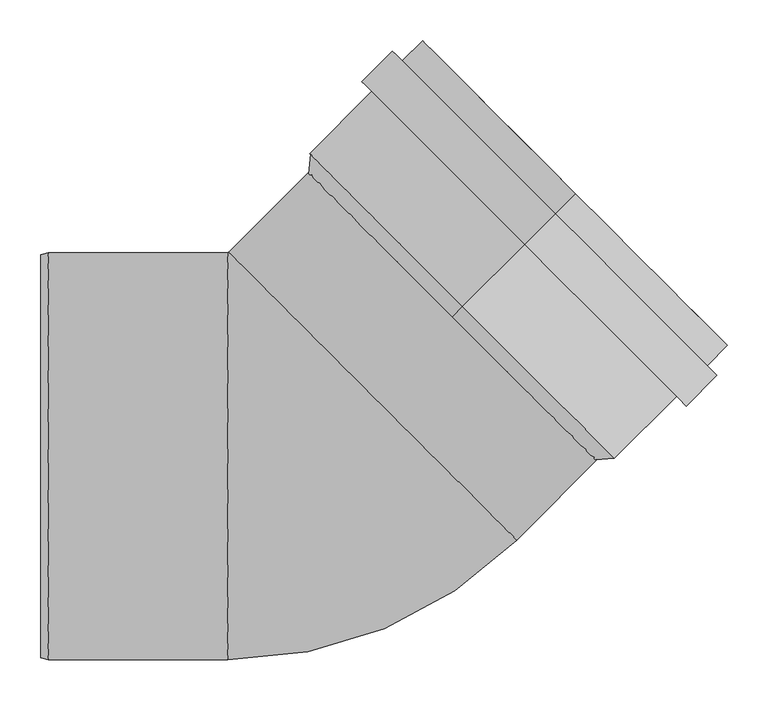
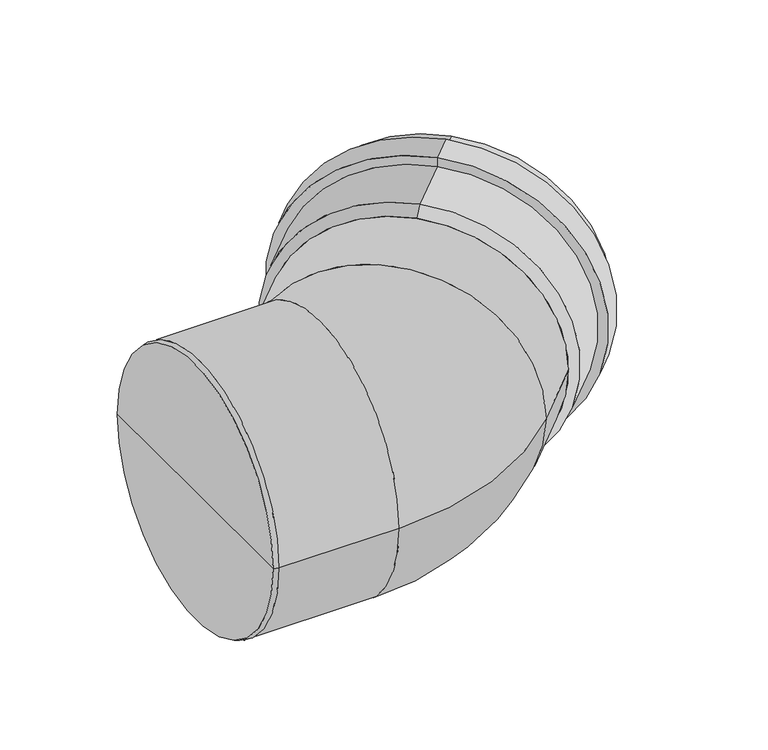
"""IFC4 building model written with IfcOpenShell, lengths in millimetres: pipe fitting geometry, OSMA_KG2000_PPKGB : Koleno 45°."""

from ifc_helpers import new_model, si_unit, point, frame, origin, place, context, project, spatial, polyline, circle_curve, ellipse_curve, trimmed, source, transform, mapped, element, save
from ifc_brep_helpers import plane_surface, cylinder_surface, revolved_surface, advanced_brep


def pipe_fitting_afd3f291(model_context):
    return source(origin(), model_context, "Body", "AdvancedBrep", [
        advanced_brep(
        [(183.8477631, 183.8477631, 250.0), (183.8477631, 183.8477631, -250.0), (322.4406922, 322.4406922, -250.0), (322.4406922, 322.4406922, 250.0), (260.2152955, 260.2152955, 265.3), (260.2152955, 260.2152955, -265.3), (183.8477631, 183.8477631, -265.3), (183.8477631, 183.8477631, 265.3), (260.2152955, 260.2152955, 282.5), (260.2152955, 260.2152955, -282.5), (297.6919549, 297.6919549, 282.5), (297.6919549, 297.6919549, -282.5), (297.6919549, 297.6919549, 265.3), (297.6919549, 297.6919549, -265.3), (322.4406922, 322.4406922, 265.3), (322.4406922, 322.4406922, -265.3), (171.119841, 171.119841, 234.7), (171.119841, 171.119841, -234.7), (171.119841, 171.119841, 250.0), (171.119841, 171.119841, -250.0)],
        [
            (0, 1, circle_curve(frame((183.8477631, 183.8477631, 0.0), z_axis=(-0.7071067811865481, -0.707106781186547, 0.0), x_axis=(0.0, 0.0, -1.0000000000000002)), 250.0)),
            (1, 2),
            (2, 3, circle_curve(frame((322.4406922, 322.4406922, 0.0), z_axis=(0.7071067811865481, 0.707106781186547, 0.0), x_axis=(0.0, 0.0, -1.0000000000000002)), 250.0)),
            (3, 0),
            (1, 0, circle_curve(frame((183.8477631, 183.8477631, 0.0), z_axis=(-0.7071067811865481, -0.707106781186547, 0.0), x_axis=(0.0, 0.0, -1.0000000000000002)), 250.0)),
            (3, 2, circle_curve(frame((322.4406922, 322.4406922, 0.0), z_axis=(0.7071067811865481, 0.707106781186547, 0.0), x_axis=(0.0, 0.0, -1.0000000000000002)), 250.0)),
            (4, 5, circle_curve(frame((260.2152955, 260.2152955, 0.0), z_axis=(-0.7071067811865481, -0.707106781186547, 0.0), x_axis=(0.0, 0.0, -1.0000000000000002)), 265.3)),
            (5, 6),
            (6, 7, circle_curve(frame((183.8477631, 183.8477631, 0.0), z_axis=(0.7071067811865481, 0.707106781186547, 0.0), x_axis=(0.0, 0.0, -1.0000000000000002)), 265.3)),
            (7, 4),
            (5, 4, circle_curve(frame((260.2152955, 260.2152955, 0.0), z_axis=(-0.7071067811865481, -0.707106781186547, 0.0), x_axis=(0.0, 0.0, -1.0000000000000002)), 265.3)),
            (7, 6, circle_curve(frame((183.8477631, 183.8477631, 0.0), z_axis=(0.7071067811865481, 0.707106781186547, 0.0), x_axis=(0.0, 0.0, -1.0000000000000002)), 265.3)),
            (8, 9, circle_curve(frame((260.2152955, 260.2152955, 0.0), z_axis=(-0.7071067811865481, -0.707106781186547, 0.0), x_axis=(0.0, 0.0, -1.0000000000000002)), 282.5)),
            (9, 5),
            (4, 8),
            (9, 8, circle_curve(frame((260.2152955, 260.2152955, 0.0), z_axis=(-0.7071067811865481, -0.707106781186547, 0.0), x_axis=(0.0, 0.0, -1.0000000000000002)), 282.5)),
            (10, 11, circle_curve(frame((297.6919549, 297.6919549, 0.0), z_axis=(-0.7071067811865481, -0.707106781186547, 0.0), x_axis=(0.0, 0.0, -1.0000000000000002)), 282.5)),
            (11, 9),
            (8, 10),
            (11, 10, circle_curve(frame((297.6919549, 297.6919549, 0.0), z_axis=(-0.7071067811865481, -0.707106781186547, 0.0), x_axis=(0.0, 0.0, -1.0000000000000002)), 282.5)),
            (12, 13, circle_curve(frame((297.6919549, 297.6919549, 0.0), z_axis=(-0.7071067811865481, -0.707106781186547, 0.0), x_axis=(0.0, 0.0, -1.0000000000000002)), 265.3)),
            (13, 11),
            (10, 12),
            (13, 12, circle_curve(frame((297.6919549, 297.6919549, 0.0), z_axis=(-0.7071067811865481, -0.707106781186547, 0.0), x_axis=(0.0, 0.0, -1.0000000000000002)), 265.3)),
            (14, 15, circle_curve(frame((322.4406922, 322.4406922, 0.0), z_axis=(-0.7071067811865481, -0.707106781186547, 0.0), x_axis=(0.0, 0.0, -1.0000000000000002)), 265.3)),
            (15, 13),
            (12, 14),
            (15, 14, circle_curve(frame((322.4406922, 322.4406922, 0.0), z_axis=(-0.7071067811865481, -0.707106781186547, 0.0), x_axis=(0.0, 0.0, -1.0000000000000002)), 265.3)),
            (2, 15),
            (14, 3),
            (16, 17, circle_curve(frame((171.119841, 171.119841, 0.0), z_axis=(-0.7071067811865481, -0.707106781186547, 0.0), x_axis=(0.0, 0.0, -1.0000000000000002)), 234.7)),
            (17, 1),
            (0, 16),
            (17, 16, circle_curve(frame((171.119841, 171.119841, 0.0), z_axis=(-0.7071067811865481, -0.707106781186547, 0.0), x_axis=(0.0, 0.0, -1.0000000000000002)), 234.7)),
            (18, 19, circle_curve(frame((171.119841, 171.119841, 0.0), z_axis=(-0.7071067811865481, -0.707106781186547, 0.0), x_axis=(0.0, 0.0, -1.0000000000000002)), 250.0)),
            (19, 17),
            (16, 18),
            (19, 18, circle_curve(frame((171.119841, 171.119841, 0.0), z_axis=(-0.7071067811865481, -0.707106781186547, 0.0), x_axis=(0.0, 0.0, -1.0000000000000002)), 250.0)),
            (6, 19),
            (18, 7),
        ],
        [
            revolved_surface(polyline([(322.44069219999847, 322.4406922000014, -250.00000000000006), (183.84776309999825, 183.84776310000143, -250.00000000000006)]), (2210.0440153, 2210.0440153, 0.0), (0.7071067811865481, 0.707106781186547, 0.0)),
            cylinder_surface(frame((2210.0440153, 2210.0440153, 0.0), z_axis=(0.7071067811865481, 0.707106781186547, 0.0), x_axis=(0.0, 0.0, -1.0000000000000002)), 265.3),
            plane_surface(frame((260.2152955, 260.2152955, 0.0), z_axis=(-0.7071067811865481, -0.707106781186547, 0.0), x_axis=(0.0, 0.0, -1.0))),
            cylinder_surface(frame((2210.0440153, 2210.0440153, 0.0), z_axis=(0.7071067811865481, 0.707106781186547, 0.0), x_axis=(0.0, 0.0, -1.0000000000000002)), 282.5),
            plane_surface(frame((297.6919549, 297.6919549, 0.0), z_axis=(0.7071067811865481, 0.707106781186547, 0.0), x_axis=(0.0, 0.0, -1.0))),
            plane_surface(frame((322.4406922, 322.4406922, 0.0), z_axis=(0.7071067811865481, 0.707106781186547, 0.0), x_axis=(0.0, 0.0, -1.0))),
            revolved_surface(polyline([(183.8477631, 183.8477631, -250.0), (171.119841, 171.119841, -234.7)]), (2210.0440153, 2210.0440153, 0.0), (0.7071067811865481, 0.707106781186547, 0.0)),
            plane_surface(frame((171.119841, 171.119841, 0.0), z_axis=(-0.7071067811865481, -0.707106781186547, 0.0), x_axis=(0.0, 0.0, -1.0))),
            revolved_surface(polyline([(171.119841, 171.119841, -250.0), (183.8477631, 183.8477631, -265.3)]), (2210.0440153, 2210.0440153, 0.0), (0.7071067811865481, 0.707106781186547, 0.0)),
        ],
        [
            (0, [[1, 2, 3, 4]]),
            (0, [[5, -4, 6, -2]]),
            (1, [[7, 8, 9, 10]]),
            (1, [[11, -10, 12, -8]]),
            (2, [[13, 14, -7, 15]]),
            (2, [[16, -15, -11, -14]]),
            (3, [[17, 18, -13, 19]]),
            (3, [[20, -19, -16, -18]]),
            (4, [[21, 22, -17, 23]]),
            (4, [[24, -23, -20, -22]]),
            (1, [[25, 26, -21, 27]]),
            (1, [[28, -27, -24, -26]]),
            (5, [[-3, 29, -25, 30]]),
            (5, [[-6, -30, -28, -29]]),
            (6, [[31, 32, -1, 33]]),
            (6, [[34, -33, -5, -32]]),
            (7, [[35, 36, -31, 37]]),
            (7, [[38, -37, -34, -36]]),
            (8, [[-9, 39, -35, 40]]),
            (8, [[-12, -40, -38, -39]]),
        ],
    ),
        advanced_brep(
        [(-103.1140508, 250.4393398, 0.0), (-104.1747109, 250.0, 0.0), (-104.1747109, -250.0, 0.0), (250.4393398, -103.1140508, 0.0), (73.6626445, 73.6626445, 250.0), (73.6626445, 73.6626445, -250.0), (-334.0, 0.0, 0.0), (-334.0, 247.5884572, 0.0), (-334.0, -247.5884572, 0.0), (-325.0, 250.0, 0.0), (-325.0, -250.0, 0.0), (356.3818177, 2.8284271, 0.0), (2.8284271, 356.3818177, 0.0)],
        [
            (0, 1, circle_curve(frame((-104.1747109, 251.5, 0.0), z_axis=(0.0, 0.0, -1.0), x_axis=(0.0, -1.0, 0.0)), 1.5)),
            (1, 2, circle_curve(frame((-104.1747109, 0.0, 0.0), z_axis=(1.0, 0.0, 0.0), x_axis=(0.0, 1.0, 0.0)), 250.0)),
            (2, 3, circle_curve(frame((-104.1747109, 251.5, 0.0), z_axis=(0.0, 0.0, 1.0), x_axis=(0.0, -1.0, 0.0)), 501.5)),
            (3, 4, circle_curve(frame((73.6626445, 73.6626445, 0.0), z_axis=(-0.7071067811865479, -0.7071067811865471, 0.0), x_axis=(-0.7071067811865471, 0.7071067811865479, 0.0)), 250.0)),
            (4, 0, circle_curve(frame((73.6626445, 73.6626445, 0.0), z_axis=(-0.7071067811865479, -0.7071067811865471, 0.0), x_axis=(-0.7071067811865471, 0.7071067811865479, 0.0)), 250.0)),
            (0, 5, circle_curve(frame((73.6626445, 73.6626445, 0.0), z_axis=(-0.7071067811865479, -0.7071067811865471, 0.0), x_axis=(-0.7071067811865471, 0.7071067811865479, 0.0)), 250.0)),
            (5, 3, circle_curve(frame((73.6626445, 73.6626445, 0.0), z_axis=(-0.707106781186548, -0.707106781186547, 0.0), x_axis=(-0.707106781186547, 0.707106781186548, 0.0)), 250.0)),
            (2, 1, circle_curve(frame((-104.1747109, 0.0, 0.0), z_axis=(1.0, 0.0, 0.0), x_axis=(0.0, 1.0, 0.0)), 250.0)),
            (6, 7),
            (7, 8, circle_curve(frame((-334.0, 0.0, 0.0), z_axis=(-1.0, 0.0, 0.0), x_axis=(0.0, 1.0, 0.0)), 247.5884572)),
            (8, 6),
            (8, 7, circle_curve(frame((-334.0, 0.0, 0.0), z_axis=(-1.0, 0.0, 0.0), x_axis=(0.0, 1.0, 0.0)), 247.5884572)),
            (7, 9),
            (9, 10, circle_curve(frame((-325.0, 0.0, 0.0), z_axis=(-1.0, 0.0, 0.0), x_axis=(0.0, 1.0, 0.0)), 250.0)),
            (10, 8),
            (10, 9, circle_curve(frame((-325.0, 0.0, 0.0), z_axis=(-1.0, 0.0, 0.0), x_axis=(0.0, 1.0, 0.0)), 250.0)),
            (9, 1),
            (2, 10),
            (11, 12, circle_curve(frame((179.6051224, 179.6051224, 0.0), z_axis=(0.7071067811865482, 0.707106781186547, 0.0), x_axis=(-0.707106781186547, 0.7071067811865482, 0.0)), 250.0)),
            (12, 11, circle_curve(frame((179.6051224, 179.6051224, 0.0), z_axis=(0.7071067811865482, 0.707106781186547, 0.0), x_axis=(-0.707106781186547, 0.7071067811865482, 0.0)), 250.0)),
            (12, 0),
            (3, 11),
        ],
        [
            revolved_surface(trimmed(ellipse_curve(frame((-104.1747109, 0.0, 0.0), z_axis=(-1.0, 0.0, 0.0), x_axis=(0.0, 1.0, 0.0)), 250.0, 250.0), [point((-104.1747109, -250.0, 0.0))], [point((-104.1747109, 250.0, 0.0))], True, "CARTESIAN"), (-104.1747109, 251.5, 0.0), (0.0, 0.0, 1.0)),
            revolved_surface(trimmed(ellipse_curve(frame((-104.1747109, 0.0, 0.0), z_axis=(-1.0, 0.0, 0.0), x_axis=(0.0, 1.0, 0.0)), 250.0, 250.0), [point((-104.1747109, 250.0, 0.0))], [point((-104.1747109, -250.0, 0.0))], True, "CARTESIAN"), (-104.1747109, 251.5, 0.0), (0.0, 0.0, 1.0)),
            plane_surface(frame((-334.0, 0.0, 0.0), z_axis=(-1.0, 0.0, 0.0), x_axis=(0.0, 1.0, 0.0))),
            revolved_surface(polyline([(-325.0, 250.0, 0.0), (-334.0, 247.5884572, 0.0)]), (331.0587718, 0.0, 0.0), (-1.0, 0.0, 0.0)),
            cylinder_surface(frame((331.0587718, 0.0, 0.0), z_axis=(-1.0, 0.0, 0.0), x_axis=(0.0, 1.0, 0.0)), 250.0),
            plane_surface(frame((179.6051224, 179.6051224, 0.0), z_axis=(0.7071067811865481, 0.7071067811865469, 0.0), x_axis=(0.0, 0.0, 1.0))),
            cylinder_surface(frame((73.6626445, 73.6626445, 0.0), z_axis=(-0.7071067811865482, -0.707106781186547, 0.0), x_axis=(-0.707106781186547, 0.7071067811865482, 0.0)), 250.0),
        ],
        [
            (0, [[1, 2, 3, 4, 5]]),
            (1, [[-1, 6, 7, -3, 8]]),
            (2, [[9, 10, 11]]),
            (2, [[-9, -11, 12]]),
            (3, [[-10, 13, 14, 15]]),
            (3, [[-12, -15, 16, -13]]),
            (4, [[-14, 17, -8, 18]]),
            (4, [[-16, -18, -2, -17]]),
            (5, [[19, 20]]),
            (6, [[-20, 21, -5, -4, 22]]),
            (6, [[-19, -22, -7, -6, -21]]),
        ],
    ),
    ])


if __name__ == "__main__":
    model = new_model("IFC4")
    model_context = context("Model", 3, world=origin())
    ifc_project = project(units=[si_unit("LENGTHUNIT", "METRE", prefix="MILLI")], contexts=[model_context])
    site = spatial("IfcSite", under=ifc_project)
    building = spatial("IfcBuilding", under=site)
    placement = place(None, origin())
    pipe_fitting_shape = pipe_fitting_afd3f291(model_context)
    element("IfcPipeFitting", 1, ObjectType="OSMA_KG2000_PPKGB : Koleno 45°", at=placement, inside=building, context=model_context, shape_type="MappedRepresentation", body=[
        mapped(pipe_fitting_shape, transform((0.0, 0.0, 0.0), x_axis=(1.0, 0.0, 0.0), y_axis=(0.0, 1.0, 0.0), z_axis=(0.0, 0.0, 1.0))),
    ])
    save(model, "model.ifc")
